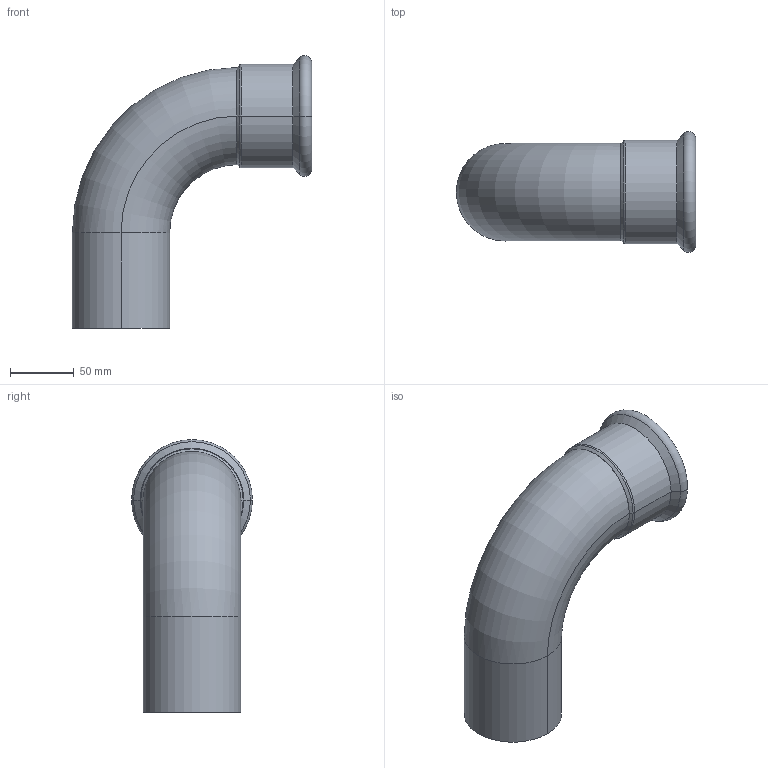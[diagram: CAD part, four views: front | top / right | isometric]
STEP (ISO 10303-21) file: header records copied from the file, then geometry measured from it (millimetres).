
FILE_DESCRIPTION(('CoCreate Modeling STEP Export'),'2;1');
FILE_NAME('C1411 76.1x76.1.stp','2014-11-11T16:37:33',(''),(''),'CoCreate Modeling STEP processor for AP214 (Solid Model)','CoCreate Modeling 17.00A 17-Jun-2010 (C) Parametric Technology GmbH','');
FILE_SCHEMA(('AUTOMOTIVE_DESIGN { 1 0 10303 214 1 1 1 1 }'));
Length unit declared in the file: millimetre
Products named in the file (2): C1411_76x76
Assembly tree (1 placements, depth 2):
  C1411_76x76
    C1411_76x76
Bounding box: 187.05 x 94.48 x 213.24 mm (x, y, z)
Volume: 149263.2 mm3; surface area: 134424.2 mm2
Topology: 1 solids, 1 shells, 31 faces, 68 edges, 41 vertices
Faces by surface type: cylinder 12, torus 8, plane 7, cone 4
Entity records: 2330 total; most frequent: CARTESIAN_POINT 1697, ORIENTED_EDGE 136, DIRECTION 106, EDGE_CURVE 68, AXIS2_PLACEMENT_3D 45, VERTEX_POINT 41, EDGE_LOOP 35, FACE_OUTER_BOUND 31
